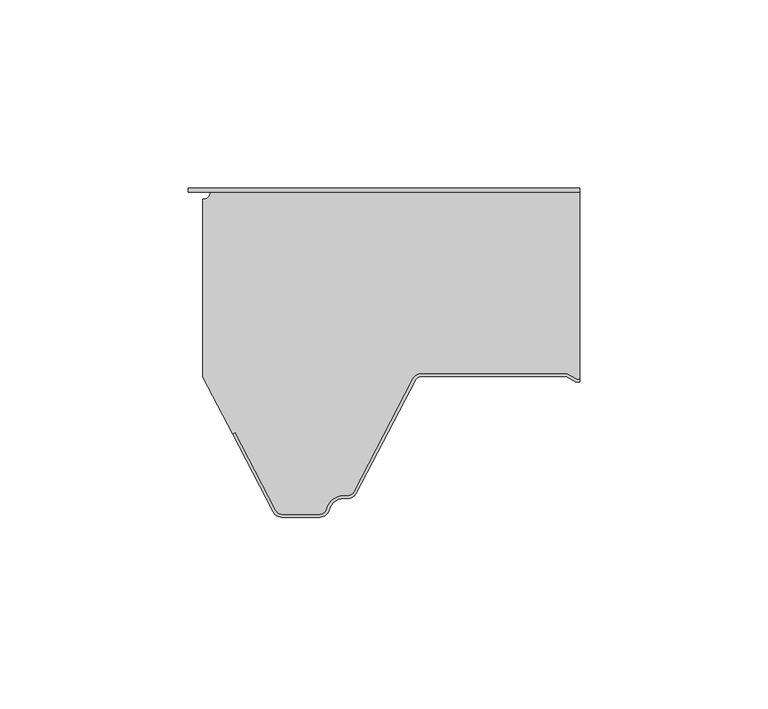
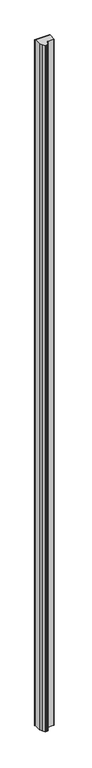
"""IFC4 building model written with IfcOpenShell, lengths in millimetres: plate geometry, Paneles-Sándwich-Madera_PALDR-H_Curtain-Panel : PALDR H 50/10."""

from ifc_helpers import new_model, si_unit, frame, origin, origin_with_axes, place, context, project, spatial, polyline, circle_curve, outline, extrude, source, transform, mapped, element, save
from ifc_brep_helpers import plane_surface, cylinder_surface, revolved_surface, advanced_brep


def plate_27f2c497(model_context):
    return source(origin(), model_context, "Body", "SolidModel", [
        extrude(outline(polyline([(-53.88, -1.0), (-53.88, 0.0), (50.0, 0.0), (50.0, -1.0), (-53.88, -1.0)])), origin_with_axes(), (0.0, 0.0, 1.0), 5000.0),
        advanced_brep(
        [(-30.6207387, -85.6314818, 0.0), (-41.4414179, -64.855778, 0.0), (-42.1509492, -65.2253256, 0.0), (-50.0, -50.1551481, 0.0), (-50.0, -2.95, 0.0), (-48.05, -1.0, 0.0), (50.0, -1.0, 0.0), (50.0, -50.7, 0.0), (49.2107961, -50.7, 0.0), (46.6127185, -49.2, 0.0), (8.090871, -49.2, 0.0), (5.6075115, -50.7065836, 0.0), (-9.9783733, -80.6314825, 0.0), (-11.574819, -81.6, 0.0), (-12.6272901, -81.6, 0.0), (-17.2841077, -85.2363636, 0.0), (-19.030414, -86.5999997, 0.0), (-29.024293, -86.5999997, 0.0), (-30.6207383, -85.6314813, 5000.0), (-29.024293, -86.5999997, 5000.0), (-19.030414, -86.5999997, 5000.0), (-17.2841077, -85.2363636, 5000.0), (-12.6272901, -81.6, 5000.0), (-11.574819, -81.6, 5000.0), (-9.9783737, -80.631482, 5000.0), (5.6075107, -50.7065835, 5000.0), (8.090871, -49.2, 5000.0), (46.6127185, -49.2, 5000.0), (49.2107961, -50.7, 5000.0), (50.0, -50.7, 5000.0), (50.0, -1.0, 5000.0), (-48.05, -1.0, 5000.0), (-50.0, -2.95, 5000.0), (-50.0, -50.1551481, 5000.0), (-42.1509492, -65.2253256, 5000.0), (-41.4414179, -64.855778, 5000.0)],
        [
            (0, 1),
            (1, 2),
            (2, 3),
            (3, 4),
            (4, 5, circle_curve(frame((-50.0, -1.0, 0.0), z_axis=(0.0, 0.0, 1.0), x_axis=(-1.0, 0.0, 0.0)), 1.95)),
            (5, 6),
            (6, 7),
            (7, 8),
            (8, 9),
            (9, 10),
            (10, 11, circle_curve(frame((8.090871, -52.0, 0.0), z_axis=(0.0, 0.0, 1.0), x_axis=(-1.0, 0.0, 0.0)), 2.8)),
            (11, 12),
            (12, 13, circle_curve(frame((-11.574819, -79.8, 0.0), z_axis=(0.0, 0.0, -1.0), x_axis=(-1.0, 0.0, 0.0)), 1.8)),
            (13, 14),
            (14, 15, circle_curve(frame((-12.6272901, -86.4, 0.0), z_axis=(0.0, 0.0, 1.0), x_axis=(-1.0, 0.0, 0.0)), 4.8)),
            (15, 16, circle_curve(frame((-19.030414, -84.8, 0.0), z_axis=(0.0, 0.0, -1.0), x_axis=(-1.0, 0.0, 0.0)), 1.7999997)),
            (16, 17),
            (17, 0, circle_curve(frame((-29.024293, -84.8, 0.0), z_axis=(0.0, 0.0, -1.0), x_axis=(-1.0, 0.0, 0.0)), 1.7999997)),
            (18, 19, circle_curve(frame((-29.024293, -84.8, 5000.0), z_axis=(0.0, 0.0, 1.0), x_axis=(-1.0, 0.0, 0.0)), 1.7999997)),
            (19, 20),
            (20, 21, circle_curve(frame((-19.030414, -84.8, 5000.0), z_axis=(0.0, 0.0, 1.0), x_axis=(-1.0, 0.0, 0.0)), 1.7999997)),
            (21, 22, circle_curve(frame((-12.6272901, -86.4, 5000.0), z_axis=(0.0, 0.0, -1.0), x_axis=(-1.0, 0.0, 0.0)), 4.8)),
            (22, 23),
            (23, 24, circle_curve(frame((-11.574819, -79.8, 5000.0), z_axis=(0.0, 0.0, 1.0), x_axis=(-1.0, 0.0, 0.0)), 1.8)),
            (24, 25),
            (25, 26, circle_curve(frame((8.090871, -52.0, 5000.0), z_axis=(0.0, 0.0, -1.0), x_axis=(-1.0, 0.0, 0.0)), 2.8)),
            (26, 27),
            (27, 28),
            (28, 29),
            (29, 30),
            (30, 31),
            (31, 32, circle_curve(frame((-50.0, -1.0, 5000.0), z_axis=(0.0, 0.0, -1.0), x_axis=(-1.0, 0.0, 0.0)), 1.95)),
            (32, 33),
            (33, 34),
            (34, 35),
            (35, 18),
            (0, 18),
            (35, 1),
            (34, 2),
            (33, 3),
            (32, 4),
            (5, 31),
            (30, 6),
            (28, 8),
            (7, 29),
            (27, 9),
            (26, 10),
            (25, 11),
            (24, 12),
            (23, 13),
            (22, 14),
            (21, 15),
            (20, 16),
            (19, 17),
        ],
        [
            plane_surface(frame((-50.0, 0.0, 0.0), z_axis=(0.0, 0.0, -1.0), x_axis=(0.0, 1.0, 0.0))),
            plane_surface(frame((-50.0, 0.0, 5000.0), z_axis=(0.0, 0.0, 1.0), x_axis=(0.0, 1.0, 0.0))),
            plane_surface(frame((-30.6207387, -85.6314818, 0.0), z_axis=(-0.8869140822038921, -0.4619344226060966, 0.0), x_axis=(0.0, 0.0, 1.0))),
            plane_surface(frame((-41.4414179, -64.855778, 0.0), z_axis=(0.4619344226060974, -0.8869140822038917, 0.0), x_axis=(0.0, 0.0, 1.0))),
            plane_surface(frame((-42.1509492, -65.2253256, 0.0), z_axis=(-0.8869140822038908, -0.4619344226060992, 0.0), x_axis=(0.0, 0.0, 1.0))),
            plane_surface(frame((-50.0, -50.1551481, 0.0), z_axis=(-1.0, 0.0, 0.0), x_axis=(0.0, 0.0, 1.0))),
            plane_surface(frame((-48.05, -1.0, 0.0), z_axis=(0.0, 1.0, 0.0), x_axis=(0.0, 0.0, 1.0))),
            plane_surface(frame((81.5859248, -50.7, 0.0), z_axis=(0.0, -1.0, 0.0), x_axis=(0.0, 0.0, 1.0))),
            plane_surface(frame((49.2107961, -50.7, 0.0), z_axis=(-0.4999997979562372, -0.866025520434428, 0.0), x_axis=(0.0, 0.0, 1.0))),
            plane_surface(frame((46.6127185, -49.2, 0.0), z_axis=(0.0, -1.0, 0.0), x_axis=(0.0, 0.0, 1.0))),
            revolved_surface(polyline([(5.290871, -52.0, 5000.0), (5.290871, -52.0, 0.0)]), (8.090871, -52.0, 0.0), (0.0, 0.0, 1.0)),
            plane_surface(frame((5.6075107, -50.7065835, 0.0), z_axis=(0.8869140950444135, -0.46193439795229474, 0.0), x_axis=(0.0, 0.0, 1.0))),
            cylinder_surface(frame((-11.574819, -79.8, 0.0), z_axis=(0.0, 0.0, -1.0), x_axis=(-1.0, 0.0, 0.0)), 1.8),
            plane_surface(frame((-11.574819, -81.6, 0.0), z_axis=(0.0, -1.0, 0.0), x_axis=(0.0, 0.0, 1.0))),
            revolved_surface(polyline([(-17.4272901, -86.4, 5000.0), (-17.4272901, -86.4, 0.0)]), (-12.6272901, -86.4, 0.0), (0.0, 0.0, 1.0)),
            cylinder_surface(frame((-19.030414, -84.8, 0.0), z_axis=(0.0, 0.0, -1.0), x_axis=(-1.0, 0.0, 0.0)), 1.7999997),
            plane_surface(frame((-19.030414, -86.5999997, 0.0), z_axis=(0.0, -1.0, 0.0), x_axis=(0.0, 0.0, 1.0))),
            cylinder_surface(frame((-29.024293, -84.8, 0.0), z_axis=(0.0, 0.0, -1.0), x_axis=(-1.0, 0.0, 0.0)), 1.7999997),
            revolved_surface(polyline([(-51.95, -1.0, 5000.0), (-51.95, -1.0, 0.0)]), (-50.0, -1.0, 0.0), (0.0, 0.0, 1.0)),
            plane_surface(frame((50.0, 0.0, 5000.0), z_axis=(1.0, 0.0, 0.0), x_axis=(0.0, 0.0, -1.0))),
        ],
        [
            (0, [[1, 2, 3, 4, 5, 6, 7, 8, 9, 10, 11, 12, 13, 14, 15, 16, 17, 18]]),
            (1, [[19, 20, 21, 22, 23, 24, 25, 26, 27, 28, 29, 30, 31, 32, 33, 34, 35, 36]]),
            (2, [[-1, 37, -36, 38]]),
            (3, [[-2, -38, -35, 39]]),
            (4, [[-3, -39, -34, 40]]),
            (5, [[-4, -40, -33, 41]]),
            (6, [[42, -31, 43, -6]]),
            (7, [[44, -8, 45, -29]]),
            (8, [[-9, -44, -28, 46]]),
            (9, [[-10, -46, -27, 47]]),
            (10, [[-11, -47, -26, 48]]),
            (11, [[-12, -48, -25, 49]]),
            (12, [[-13, -49, -24, 50]]),
            (13, [[-14, -50, -23, 51]]),
            (14, [[-15, -51, -22, 52]]),
            (15, [[-16, -52, -21, 53]]),
            (16, [[-17, -53, -20, 54]]),
            (17, [[-18, -54, -19, -37]]),
            (18, [[-5, -41, -32, -42]]),
            (19, [[-7, -43, -30, -45]]),
        ],
    ),
        advanced_brep(
        [(49.2107962, -50.7, 5000.0), (46.6127186, -49.2, 5000.0), (8.090871, -49.2, 5000.0), (5.6075116, -50.7065836, 5000.0), (-9.9783733, -80.6314825, 5000.0), (-11.574819, -81.6, 5000.0), (-12.62729, -81.6, 5000.0), (-17.2841076, -85.2363636, 5000.0), (-19.030414, -86.6, 5000.0), (-29.024293, -86.6, 5000.0), (-30.6207383, -85.631482, 5000.0), (-41.4404688, -64.8576004, 5000.0), (-42.15, -65.227148, 5000.0), (-31.33027, -86.00103, 5000.0), (-29.024293, -87.4, 5000.0), (-19.030414, -87.4, 5000.0), (-16.5079711, -85.4303031, 5000.0), (-12.62729, -82.4, 5000.0), (-11.574819, -82.4, 5000.0), (-9.2688424, -81.0010295, 5000.0), (6.317042, -51.076131, 5000.0), (8.090871, -50.0, 5000.0), (46.3983593, -50.0, 5000.0), (48.9964369, -51.5, 5000.0), (50.0, -51.5, 5000.0), (50.0, -50.7, 5000.0), (48.9964369, -51.5, 0.0), (46.3983593, -50.0, 0.0), (8.090871, -50.0, 0.0), (6.3170428, -51.0761312, 0.0), (-9.268842, -81.00103, 0.0), (-11.574819, -82.4, 0.0), (-12.62729, -82.4, 0.0), (-16.5079713, -85.430303, 0.0), (-19.030414, -87.4, 0.0), (-29.024293, -87.4, 0.0), (-31.3302696, -86.0010295, 0.0), (-42.15, -65.227148, 0.0), (-41.4404688, -64.8576004, 0.0), (-30.6207387, -85.6314825, 0.0), (-29.024293, -86.6, 0.0), (-19.030414, -86.6, 0.0), (-17.2841074, -85.2363637, 0.0), (-12.62729, -81.6, 0.0), (-11.574819, -81.6, 0.0), (-9.9783737, -80.631482, 0.0), (5.6075107, -50.7065835, 0.0), (8.090871, -49.2, 0.0), (46.6127186, -49.2, 0.0), (49.2107962, -50.7, 0.0), (50.0, -50.7, 0.0), (50.0, -51.5, 0.0)],
        [
            (0, 1),
            (1, 2),
            (2, 3, circle_curve(frame((8.090871, -52.0, 5000.0), z_axis=(0.0, 0.0, 1.0), x_axis=(1.0, 0.0, 0.0)), 2.8)),
            (3, 4),
            (4, 5, circle_curve(frame((-11.574819, -79.8, 5000.0), z_axis=(0.0, 0.0, -1.0), x_axis=(1.0, 0.0, 0.0)), 1.8)),
            (5, 6),
            (6, 7, circle_curve(frame((-12.62729, -86.4, 5000.0), z_axis=(0.0, 0.0, 1.0), x_axis=(1.0, 0.0, 0.0)), 4.8)),
            (7, 8, circle_curve(frame((-19.030414, -84.8, 5000.0), z_axis=(0.0, 0.0, -1.0), x_axis=(1.0, 0.0, 0.0)), 1.8)),
            (8, 9),
            (9, 10, circle_curve(frame((-29.024293, -84.8, 5000.0), z_axis=(0.0, 0.0, -1.0), x_axis=(1.0, 0.0, 0.0)), 1.8)),
            (10, 11),
            (11, 12),
            (12, 13),
            (13, 14, circle_curve(frame((-29.024293, -84.8, 5000.0), z_axis=(0.0, 0.0, 1.0), x_axis=(1.0, 0.0, 0.0)), 2.6)),
            (14, 15),
            (15, 16, circle_curve(frame((-19.030414, -84.8, 5000.0), z_axis=(0.0, 0.0, 1.0), x_axis=(1.0, 0.0, 0.0)), 2.6)),
            (16, 17, circle_curve(frame((-12.62729, -86.4, 5000.0), z_axis=(0.0, 0.0, -1.0), x_axis=(1.0, 0.0, 0.0)), 4.0)),
            (17, 18),
            (18, 19, circle_curve(frame((-11.574819, -79.8, 5000.0), z_axis=(0.0, 0.0, 1.0), x_axis=(1.0, 0.0, 0.0)), 2.6)),
            (19, 20),
            (20, 21, circle_curve(frame((8.090871, -52.0, 5000.0), z_axis=(0.0, 0.0, -1.0), x_axis=(1.0, 0.0, 0.0)), 2.0)),
            (21, 22),
            (22, 23),
            (23, 24),
            (24, 25),
            (25, 0),
            (26, 27),
            (27, 28),
            (28, 29, circle_curve(frame((8.090871, -52.0, 0.0), z_axis=(0.0, 0.0, 1.0), x_axis=(1.0, 0.0, 0.0)), 2.0)),
            (29, 30),
            (30, 31, circle_curve(frame((-11.574819, -79.8, 0.0), z_axis=(0.0, 0.0, -1.0), x_axis=(1.0, 0.0, 0.0)), 2.6)),
            (31, 32),
            (32, 33, circle_curve(frame((-12.62729, -86.4, 0.0), z_axis=(0.0, 0.0, 1.0), x_axis=(1.0, 0.0, 0.0)), 4.0)),
            (33, 34, circle_curve(frame((-19.030414, -84.8, 0.0), z_axis=(0.0, 0.0, -1.0), x_axis=(1.0, 0.0, 0.0)), 2.6)),
            (34, 35),
            (35, 36, circle_curve(frame((-29.024293, -84.8, 0.0), z_axis=(0.0, 0.0, -1.0), x_axis=(1.0, 0.0, 0.0)), 2.6)),
            (36, 37),
            (37, 38),
            (38, 39),
            (39, 40, circle_curve(frame((-29.024293, -84.8, 0.0), z_axis=(0.0, 0.0, 1.0), x_axis=(1.0, 0.0, 0.0)), 1.8)),
            (40, 41),
            (41, 42, circle_curve(frame((-19.030414, -84.8, 0.0), z_axis=(0.0, 0.0, 1.0), x_axis=(1.0, 0.0, 0.0)), 1.8)),
            (42, 43, circle_curve(frame((-12.62729, -86.4, 0.0), z_axis=(0.0, 0.0, -1.0), x_axis=(1.0, 0.0, 0.0)), 4.8)),
            (43, 44),
            (44, 45, circle_curve(frame((-11.574819, -79.8, 0.0), z_axis=(0.0, 0.0, 1.0), x_axis=(1.0, 0.0, 0.0)), 1.8)),
            (45, 46),
            (46, 47, circle_curve(frame((8.090871, -52.0, 0.0), z_axis=(0.0, 0.0, -1.0), x_axis=(1.0, 0.0, 0.0)), 2.8)),
            (47, 48),
            (48, 49),
            (49, 50),
            (50, 51),
            (51, 26),
            (49, 0),
            (25, 50),
            (48, 1),
            (47, 2),
            (46, 3),
            (45, 4),
            (44, 5),
            (43, 6),
            (42, 7),
            (41, 8),
            (40, 9),
            (39, 10),
            (38, 11),
            (37, 12),
            (36, 13),
            (35, 14),
            (34, 15),
            (33, 16),
            (32, 17),
            (31, 18),
            (30, 19),
            (29, 20),
            (28, 21),
            (27, 22),
            (26, 23),
            (51, 24),
        ],
        [
            plane_surface(frame((-50.0, -50.0, 5000.0), z_axis=(0.0, 0.0, 1.0), x_axis=(0.0, 1.0, 0.0))),
            plane_surface(frame((-50.0, -50.0, 0.0), z_axis=(0.0, 0.0, -1.0), x_axis=(0.0, 1.0, 0.0))),
            plane_surface(frame((81.5859248, -50.7, 5000.0), z_axis=(0.0, 1.0, 0.0), x_axis=(0.0, 0.0, -1.0))),
            plane_surface(frame((49.2107962, -50.7, 5000.0), z_axis=(0.4999997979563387, 0.8660255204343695, 0.0), x_axis=(0.0, 0.0, -1.0))),
            plane_surface(frame((46.6127186, -49.2, 5000.0), z_axis=(0.0, 1.0, 0.0), x_axis=(0.0, 0.0, -1.0))),
            cylinder_surface(frame((8.090871, -52.0, 5000.0), z_axis=(0.0, 0.0, 1.0), x_axis=(1.0, 0.0, 0.0)), 2.8),
            plane_surface(frame((5.6075107, -50.7065835, 5000.0), z_axis=(-0.8869140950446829, 0.4619343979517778, 0.0), x_axis=(0.0, 0.0, -1.0))),
            revolved_surface(polyline([(-9.774818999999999, -79.8, 0.0), (-9.774818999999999, -79.8, 5000.0)]), (-11.574819, -79.8, 5000.0), (0.0, 0.0, -1.0)),
            plane_surface(frame((-11.574819, -81.6, 5000.0), z_axis=(0.0, 1.0, 0.0), x_axis=(0.0, 0.0, -1.0))),
            cylinder_surface(frame((-12.62729, -86.4, 5000.0), z_axis=(0.0, 0.0, 1.0), x_axis=(1.0, 0.0, 0.0)), 4.8),
            revolved_surface(polyline([(-17.230414, -84.8, 0.0), (-17.230414, -84.8, 5000.0)]), (-19.030414, -84.8, 5000.0), (0.0, 0.0, -1.0)),
            plane_surface(frame((-19.030414, -86.6, 5000.0), z_axis=(0.0, 1.0, 0.0), x_axis=(0.0, 0.0, -1.0))),
            revolved_surface(polyline([(-27.224293, -84.8, 0.0), (-27.224293, -84.8, 5000.0)]), (-29.024293, -84.8, 5000.0), (0.0, 0.0, -1.0)),
            plane_surface(frame((-30.6207387, -85.6314825, 5000.0), z_axis=(0.8869140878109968, 0.46193441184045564, 0.0), x_axis=(0.0, 0.0, -1.0))),
            plane_surface(frame((-41.4404688, -64.8576004, 5000.0), z_axis=(-0.46193450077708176, 0.8869140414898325, 0.0), x_axis=(0.0, 0.0, -1.0))),
            plane_surface(frame((-42.15, -65.227148, 5000.0), z_axis=(-0.8869140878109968, -0.46193441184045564, 0.0), x_axis=(0.0, 0.0, -1.0))),
            cylinder_surface(frame((-29.024293, -84.8, 5000.0), z_axis=(0.0, 0.0, 1.0), x_axis=(1.0, 0.0, 0.0)), 2.6),
            plane_surface(frame((-29.024293, -87.4, 5000.0), z_axis=(0.0, -1.0, 0.0), x_axis=(0.0, 0.0, -1.0))),
            cylinder_surface(frame((-19.030414, -84.8, 5000.0), z_axis=(0.0, 0.0, 1.0), x_axis=(1.0, 0.0, 0.0)), 2.6),
            revolved_surface(polyline([(-8.62729, -86.4, 0.0), (-8.62729, -86.4, 5000.0)]), (-12.62729, -86.4, 5000.0), (0.0, 0.0, -1.0)),
            plane_surface(frame((-12.62729, -82.4, 5000.0), z_axis=(0.0, -1.0, 0.0), x_axis=(0.0, 0.0, -1.0))),
            cylinder_surface(frame((-11.574819, -79.8, 5000.0), z_axis=(0.0, 0.0, 1.0), x_axis=(1.0, 0.0, 0.0)), 2.6),
            plane_surface(frame((-9.268842, -81.00103, 5000.0), z_axis=(0.8869140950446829, -0.4619343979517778, 0.0), x_axis=(0.0, 0.0, -1.0))),
            revolved_surface(polyline([(10.090871, -52.0, 0.0), (10.090871, -52.0, 5000.0)]), (8.090871, -52.0, 5000.0), (0.0, 0.0, -1.0)),
            plane_surface(frame((8.090871, -50.0, 5000.0), z_axis=(0.0, -1.0, 0.0), x_axis=(0.0, 0.0, -1.0))),
            plane_surface(frame((46.3983593, -50.0, 5000.0), z_axis=(-0.4999997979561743, -0.8660255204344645, 0.0), x_axis=(0.0, 0.0, -1.0))),
            plane_surface(frame((48.9964369, -51.5, 5000.0), z_axis=(0.0, -1.0, 0.0), x_axis=(0.0, 0.0, -1.0))),
            plane_surface(frame((50.0, 0.0, 5000.0), z_axis=(1.0, 0.0, 0.0), x_axis=(0.0, 0.0, -1.0))),
        ],
        [
            (0, [[1, 2, 3, 4, 5, 6, 7, 8, 9, 10, 11, 12, 13, 14, 15, 16, 17, 18, 19, 20, 21, 22, 23, 24, 25, 26]]),
            (1, [[27, 28, 29, 30, 31, 32, 33, 34, 35, 36, 37, 38, 39, 40, 41, 42, 43, 44, 45, 46, 47, 48, 49, 50, 51, 52]]),
            (2, [[53, -26, 54, -50]]),
            (3, [[-1, -53, -49, 55]]),
            (4, [[-2, -55, -48, 56]]),
            (5, [[-3, -56, -47, 57]]),
            (6, [[-4, -57, -46, 58]]),
            (7, [[-5, -58, -45, 59]]),
            (8, [[-6, -59, -44, 60]]),
            (9, [[-7, -60, -43, 61]]),
            (10, [[-8, -61, -42, 62]]),
            (11, [[-9, -62, -41, 63]]),
            (12, [[-10, -63, -40, 64]]),
            (13, [[-11, -64, -39, 65]]),
            (14, [[-12, -65, -38, 66]]),
            (15, [[-13, -66, -37, 67]]),
            (16, [[-14, -67, -36, 68]]),
            (17, [[-15, -68, -35, 69]]),
            (18, [[-16, -69, -34, 70]]),
            (19, [[-17, -70, -33, 71]]),
            (20, [[-18, -71, -32, 72]]),
            (21, [[-19, -72, -31, 73]]),
            (22, [[-20, -73, -30, 74]]),
            (23, [[-21, -74, -29, 75]]),
            (24, [[-22, -75, -28, 76]]),
            (25, [[-23, -76, -27, 77]]),
            (26, [[-77, -52, 78, -24]]),
            (27, [[-25, -78, -51, -54]]),
        ],
    ),
    ])


if __name__ == "__main__":
    model = new_model("IFC4")
    model_context = context("Model", 3, world=origin())
    ifc_project = project(units=[si_unit("LENGTHUNIT", "METRE", prefix="MILLI")], contexts=[model_context])
    site = spatial("IfcSite", under=ifc_project)
    building = spatial("IfcBuilding", under=site)
    placement = place(None, origin())
    plate_shape = plate_27f2c497(model_context)
    element("IfcPlate", 1, ObjectType="Paneles-Sándwich-Madera_PALDR-H_Curtain-Panel : PALDR H 50/10", at=placement, inside=building, context=model_context, shape_type="MappedRepresentation", body=[
        mapped(plate_shape, transform((0.0, 0.0, 0.0), x_axis=(1.0, 0.0, 0.0), y_axis=(0.0, 1.0, 0.0), z_axis=(0.0, 0.0, 1.0))),
    ])
    save(model, "model.ifc")
